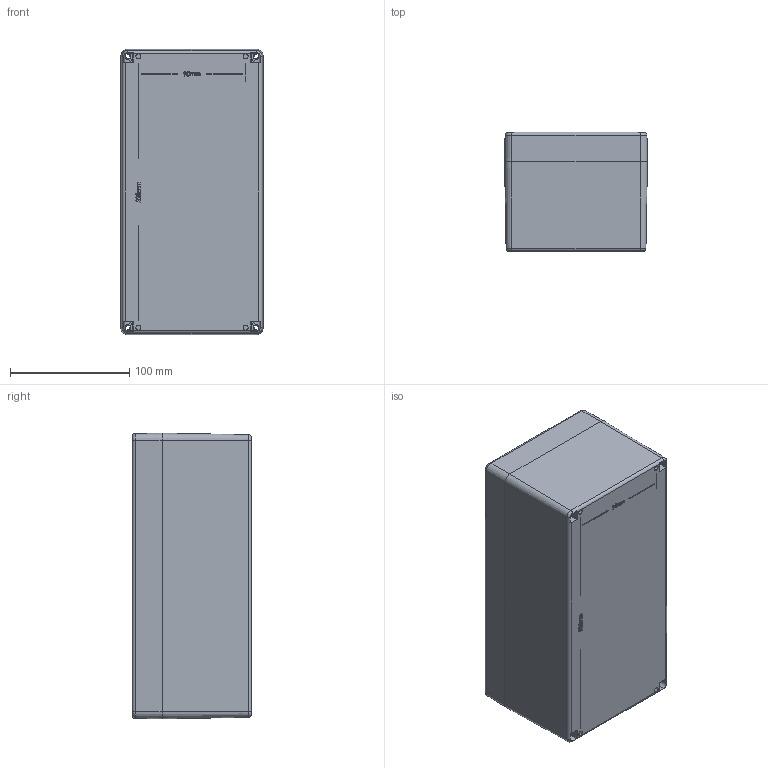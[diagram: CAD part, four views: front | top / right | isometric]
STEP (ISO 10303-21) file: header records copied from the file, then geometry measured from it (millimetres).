
FILE_DESCRIPTION (( 'STEP AP214' ), '1' );
FILE_NAME ('ZP 13 asm.STEP', '2014-10-27T11:38:16', ( '' ), ( '' ), 'SwSTEP 2.0', 'SolidWorks 2014', '' );
FILE_SCHEMA (( 'AUTOMOTIVE_DESIGN' ));
Length unit declared in the file: millimetre
Products named in the file (3): ZP 13 asm; ZP 13 Base; ZP 13 lid
Assembly tree (2 placements, depth 2):
  ZP 13 asm
    ZP 13 Base
    ZP 13 lid
Bounding box: 120 x 100.25 x 240 mm (x, y, z)
Volume: 372206.5 mm3; surface area: 283073.2 mm2
Topology: 2 solids, 2 shells, 965 faces, 2543 edges, 1644 vertices
Faces by surface type: plane 569, cone 228, bspline 83, cylinder 77, torus 8
Entity records: 34469 total; most frequent: CARTESIAN_POINT 10828, ORIENTED_EDGE 5022, DIRECTION 4623, EDGE_CURVE 2511, VECTOR 1673, LINE 1673, VERTEX_POINT 1644, AXIS2_PLACEMENT_3D 1475
